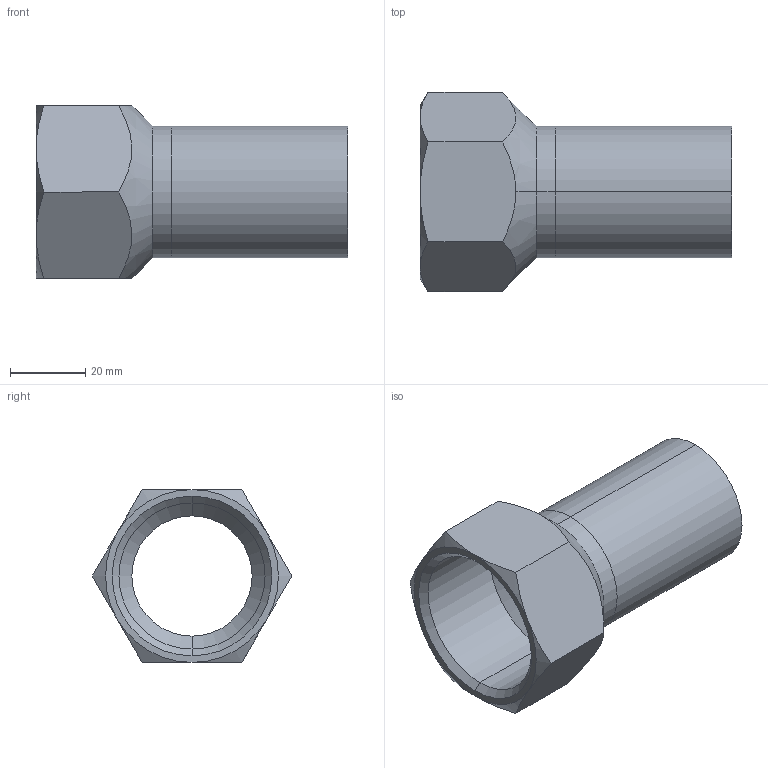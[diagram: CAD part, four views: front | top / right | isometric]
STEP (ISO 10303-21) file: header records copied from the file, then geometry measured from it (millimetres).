
FILE_DESCRIPTION (( 'STEP AP203' ), '1' );
FILE_NAME ('GDA6392.STEP', '2019-01-14T06:25:18', ( '' ), ( '' ), 'SwSTEP 2.0', 'SolidWorks 2015', '' );
FILE_SCHEMA (( 'CONFIG_CONTROL_DESIGN' ));
Length unit declared in the file: millimetre
Products named in the file (3): 35; ITC-I-03-35×1?; GDA6392
Assembly tree (2 placements, depth 2):
  GDA6392
    35
    ITC-I-03-35×1?
Bounding box: 83 x 53.12 x 46 mm (x, y, z)
Volume: 26395.5 mm3; surface area: 20807.2 mm2
Topology: 2 solids, 2 shells, 32 faces, 70 edges, 42 vertices
Faces by surface type: cone 12, cylinder 10, plane 10
Entity records: 1323 total; most frequent: CARTESIAN_POINT 329, DIRECTION 152, ORIENTED_EDGE 140, EDGE_CURVE 70, AXIS2_PLACEMENT_3D 65, VERTEX_POINT 42, EDGE_LOOP 36, ADVANCED_FACE 32
